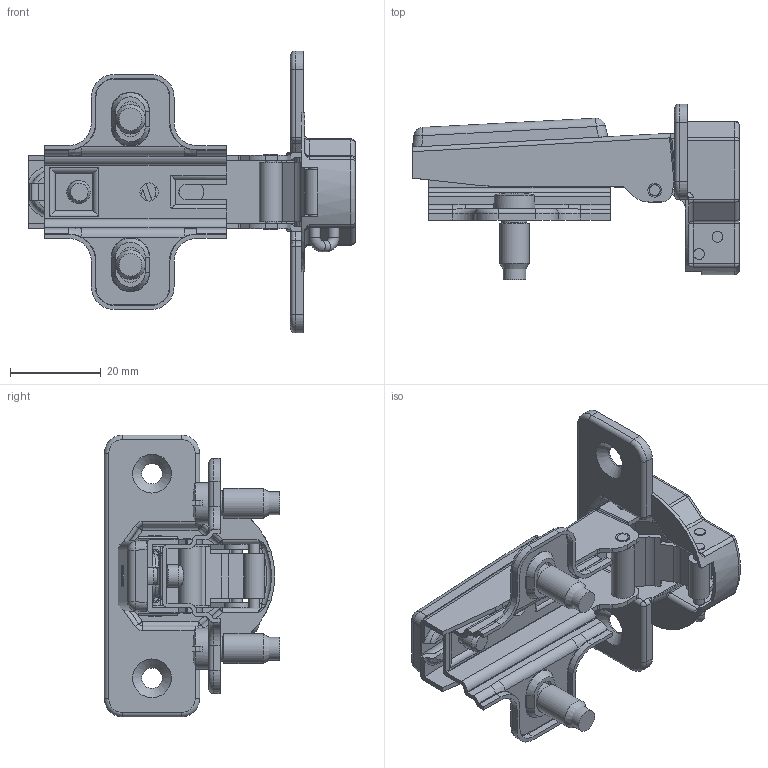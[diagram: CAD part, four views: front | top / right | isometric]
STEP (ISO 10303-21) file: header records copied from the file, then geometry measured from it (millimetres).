
FILE_DESCRIPTION(/* description */ (''),/* implementation_level */ '2;1');
FILE_NAME(/* name */ 'W:\R&D\pub\Katalog techniczny\bryły 3D\ZP-POH045ZEO.stp',/* time_stamp */ '2016-09-14T10:44:45+02:00',/* author */ ('tomaszw'),/* organization */ (''),/* preprocessor_version */ 'ST-DEVELOPER v16.1',/* originating_system */ 'Autodesk Inventor 2016',/* authorisation */ '');
FILE_SCHEMA (('CONFIG_CONTROL_DESIGN','AUTOMOTIVE_DESIGN { 1 0 10303 214 3 1 1 }'));
Length unit declared in the file: millimetre
Products named in the file (13): ZP-PO(7)H045(Z)BE(O)_P; ZP-PO(7)H045(Z)BE(O)_L1; ZP-PO(7)H045(Z)BE(O)_L2; ZP-PO(7)H045(Z)BE(O)_pin3; ZP-POH045_R; ZP-POH045_pin1; ZP-POH045_pin2; PrPO0; Euro; Wkret4x6; WR; ZP-PO_pok; ZP-PO(7)H045(Z)BE(O)
Assembly tree (13 placements, depth 2):
  ZP-PO(7)H045(Z)BE(O)
    ZP-PO(7)H045(Z)BE(O)_P
    ZP-PO(7)H045(Z)BE(O)_L1
    ZP-PO(7)H045(Z)BE(O)_L2
    ZP-PO(7)H045(Z)BE(O)_pin3
    ZP-POH045_R
    ZP-POH045_pin1
    ZP-POH045_pin2
    PrPO0
    Euro  x2
    Wkret4x6
    WR
    ZP-PO_pok
Bounding box: 71.92 x 38.6 x 62 mm (x, y, z)
Volume: 9931.3 mm3; surface area: 21906.4 mm2
Topology: 15 solids, 15 shells, 834 faces, 2074 edges, 1283 vertices
Faces by surface type: plane 331, cylinder 320, torus 70, bspline 47, sphere 44, cone 22
Full cylindrical faces by diameter (mm): 2.4 x16, 2.8 x3, 3 x4, 3.242 x1, 4 x2, 4.5 x2, 5 x3, 5.5 x2, 5.9 x2, 6 x2, 6.5 x2, 7 x1, 9 x2
Entity records: 25656 total; most frequent: CARTESIAN_POINT 5650, DIRECTION 4168, ORIENTED_EDGE 3926, EDGE_CURVE 1963, AXIS2_PLACEMENT_3D 1552, VERTEX_POINT 1241, LINE 1064, VECTOR 1064
